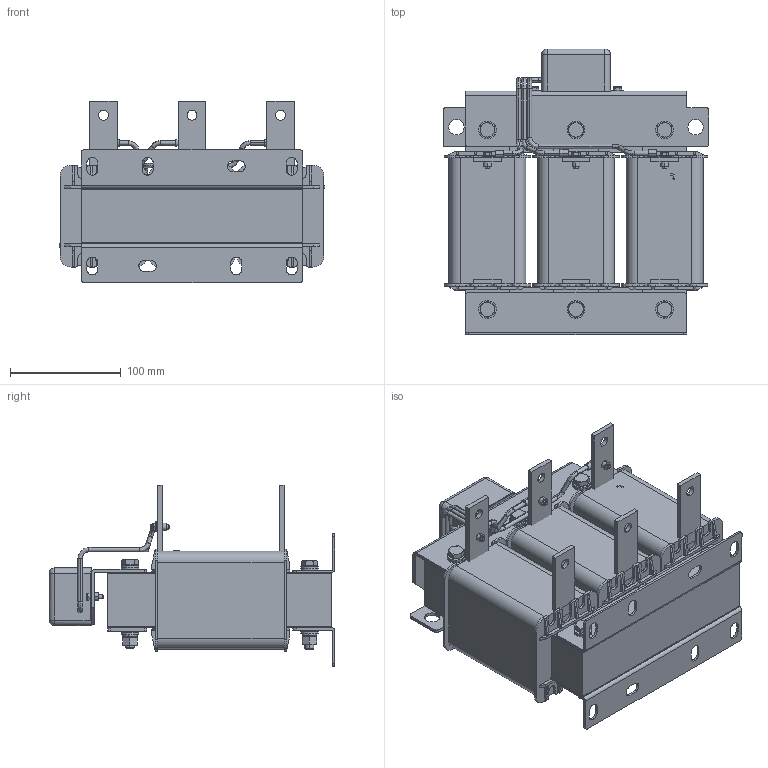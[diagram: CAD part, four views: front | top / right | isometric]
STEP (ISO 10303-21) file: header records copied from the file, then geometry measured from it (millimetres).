
FILE_DESCRIPTION (( 'STEP AP203' ), '1' );
FILE_NAME ('婰錪襝 dU_dT _ IDUDT-37_45-6.STEP', '2026-05-06T06:59:36', ( '' ), ( '' ), 'SwSTEP 2.0', 'SolidWorks 2021', '' );
FILE_SCHEMA (( 'CONFIG_CONTROL_DESIGN' ));
Length unit declared in the file: millimetre
Products named in the file (79): 奻標璃-SKS-1044.404-LJ-A0; M4す菜; DVT-线圈-37kW_1; DVT-线圈-37kW_16; DVT-线圈-37kW_43; DVT-线圈-37kW_33; DVT-线圈-37kW_31; 电容引线-37kW_1; hex nut-fine pitch-style washer-grade ab gb_GB_HEXAGON_TYPE10_1 M8X1-N; M8℅75蹟裝; DVT-线圈-37kW_8; DVT-线圈-37kW_23; DVT-线圈-37kW_5; DVT-线圈-37kW_28; DVT-线圈-37kW_29; DVT-线圈-37kW_35; M8ﾂﾝﾄｸ+ｵｯ+ﾋｫﾆｽ_3; DVT-线圈-37kW_10; ﾉﾏｼﾐｼ220｡ﾁ35｡ﾁ3; DVT-内出线排25×4-76; M4℅12坋趼鞠褒芛蹟邡; DVT-线圈-37kW_47; DVT-线圈-37kW; DVT-线圈-37kW_40; DVT-线圈-37kW_13; DVT-线圈-37kW_17; spring lock washers--normal type gb_GB_FASTENER_WASHER_SW 8; DVT-线圈-37kW_24; DVT-线圈-37kW_18; DVT-线圈-37kW_44; RNB3.5-4; M8ﾂﾝﾄｸ+ｵｯ+ﾋｫﾆｽ_4; 下夹件-200×38×35-通; DVT-线圈-37kW_30; DVT-线圈-37kW_32; 三相铁芯200-40-50-H202; M8ﾂﾝﾄｸ+ｵｯ+ﾋｫﾆｽ_1; DVT-线圈-37kW_3; DVT-线圈-37kW_14; DVT-线圈-37kW_11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
Assembly tree (133 placements, depth 3):
  婰錪襝 dU_dT _ IDUDT-37_45-6
    三相铁芯200-40-50-H202
    嶺啣沭40-202  x6
    ﾉﾏｼﾐｼ220｡ﾁ35｡ﾁ3
    下夹件-200×38×35-通  x2
    plain washers--product grade c gb_GB_FASTENER_WASHER_SMWC 8  x12
    M8℅75蹟裝  x6
    M8ﾂﾝﾄｸ+ｵｯ+ﾋｫﾆｽ
      hex nut-fine pitch-style washer-grade ab gb_GB_HEXAGON_TYPE10_1 M8X1-N
      spring lock washers--normal type gb_GB_FASTENER_WASHER_SW 8
      plain washers--product grade c gb_GB_FASTENER_WASHER_SMWC 8  x2
    M8ﾂﾝﾄｸ+ｵｯ+ﾋｫﾆｽ_1
      hex nut-fine pitch-style washer-grade ab gb_GB_HEXAGON_TYPE10_1 M8X1-N
      spring lock washers--normal type gb_GB_FASTENER_WASHER_SW 8
      plain washers--product grade c gb_GB_FASTENER_WASHER_SMWC 8  x2
    DVT-外出线排25×4-76  x3
    M8ﾂﾝﾄｸ+ｵｯ+ﾋｫﾆｽ_2
      hex nut-fine pitch-style washer-grade ab gb_GB_HEXAGON_TYPE10_1 M8X1-N
      spring lock washers--normal type gb_GB_FASTENER_WASHER_SW 8
      plain washers--product grade c gb_GB_FASTENER_WASHER_SMWC 8  x2
    M8ﾂﾝﾄｸ+ｵｯ+ﾋｫﾆｽ_3
      hex nut-fine pitch-style washer-grade ab gb_GB_HEXAGON_TYPE10_1 M8X1-N
      spring lock washers--normal type gb_GB_FASTENER_WASHER_SW 8
      plain washers--product grade c gb_GB_FASTENER_WASHER_SMWC 8  x2
    M8ﾂﾝﾄｸ+ｵｯ+ﾋｫﾆｽ_4
      hex nut-fine pitch-style washer-grade ab gb_GB_HEXAGON_TYPE10_1 M8X1-N
      spring lock washers--normal type gb_GB_FASTENER_WASHER_SW 8
      plain washers--product grade c gb_GB_FASTENER_WASHER_SMWC 8  x2
    M8ﾂﾝﾄｸ+ｵｯ+ﾋｫﾆｽ_5
      hex nut-fine pitch-style washer-grade ab gb_GB_HEXAGON_TYPE10_1 M8X1-N
      spring lock washers--normal type gb_GB_FASTENER_WASHER_SW 8
      plain washers--product grade c gb_GB_FASTENER_WASHER_SMWC 8  x2
    奻標璃-SKS-1044.404-LJ-A0
    电容盒-SKS-0901.601-LJ-A2
    M4℅12坋趼鞠褒芛蹟邡  x5
    DVT-内出线排25×4-76  x3
    RNB1.25-4
    M4す菜  x3
    RNB3.5-4  x2
    电容引线-37kW
      电容引线-37kW_1
      电容引线-37kW_2
      电容引线-37kW
    DVT-线圈-37kW
      DVT-线圈-37kW_3
      DVT-线圈-37kW_36
      DVT-线圈-37kW_35
      DVT-线圈-37kW_34
      DVT-线圈-37kW_43
      DVT-线圈-37kW_14
      DVT-线圈-37kW_44
      DVT-线圈-37kW_48
      DVT-线圈-37kW_11
      DVT-线圈-37kW_18
      DVT-线圈-37kW
      DVT-线圈-37kW_31
      DVT-线圈-37kW_2
      DVT-线圈-37kW_47
      DVT-线圈-37kW_12
      DVT-线圈-37kW_38
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Bounding box: 240 x 258 x 163.5 mm (x, y, z)
Volume: 3292385.3 mm3; surface area: 675943.5 mm2
Topology: 134 solids, 134 shells, 1984 faces, 4886 edges, 3212 vertices
Faces by surface type: plane 1173, cylinder 596, cone 166, bspline 44, sphere 5
Entity records: 50239 total; most frequent: CARTESIAN_POINT 8310, DIRECTION 6821, ORIENTED_EDGE 6508, EDGE_CURVE 3254, LINE 2333, VECTOR 2333, AXIS2_PLACEMENT_3D 2244, VERTEX_POINT 2160
